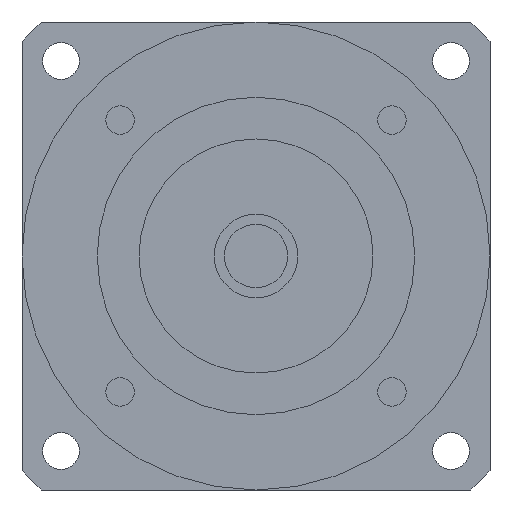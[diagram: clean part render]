
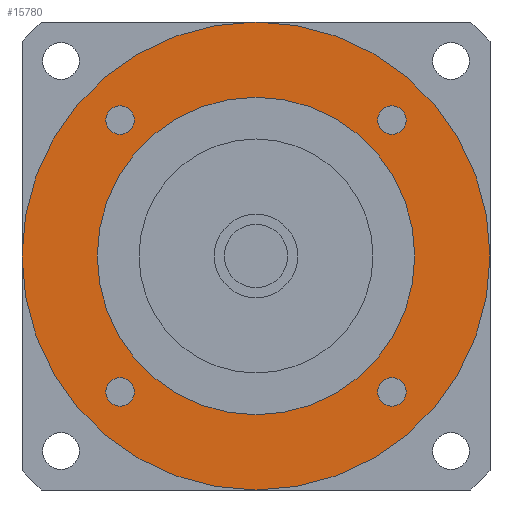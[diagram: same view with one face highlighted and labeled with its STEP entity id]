
A CAD part, left-side view. The second image highlights one B-rep face of the part: STEP entity #15780.
In plain terms, the highlighted planar face has unit normal (-1, 0, 0) as drawn and (0, 0, -1) by its records, which use the part's own axes.
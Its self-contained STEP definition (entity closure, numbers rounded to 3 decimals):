
#14620=CARTESIAN_POINT('',(-70.,0.,-59.701));
#14630=VERTEX_POINT('',#14620);
#14660=CARTESIAN_POINT('',(0.,0.,
-59.701));
#14670=DIRECTION('',(0.,0.,-1.));
#14680=DIRECTION('',(0.,-1.,0.));
#14690=AXIS2_PLACEMENT_3D('',#14660,#14670,#14680);
#14700=CIRCLE('',#14690,70.);
#14710=CARTESIAN_POINT('',(70.,0.,-59.701));
#14720=VERTEX_POINT('',#14710);
#14730=EDGE_CURVE('',#14630,#14720,#14700,.T.);
#14850=CARTESIAN_POINT('',(0.,0.,
-59.701));
#14860=DIRECTION('',(0.,0.,-1.));
#14870=DIRECTION('',(1.,0.,0.));
#14880=AXIS2_PLACEMENT_3D('',#14850,#14860,#14870);
#14890=PLANE('',#14880);
#14900=CARTESIAN_POINT('',(40.659,40.659,-59.701));
#14910=DIRECTION('',(0.,0.,-1.));
#14920=DIRECTION('',(0.,1.,0.));
#14930=AXIS2_PLACEMENT_3D('',#14900,#14910,#14920);
#14940=CIRCLE('',#14930,4.25);
#14950=CARTESIAN_POINT('',(40.659,44.909,-59.701));
#14960=VERTEX_POINT('',#14950);
#14970=CARTESIAN_POINT('',(40.659,36.409,-59.701));
#14980=VERTEX_POINT('',#14970);
#14990=EDGE_CURVE('',#14960,#14980,#14940,.T.);
#15000=ORIENTED_EDGE('',*,*,#14990,.F.);
#15010=EDGE_CURVE('',#14980,#14960,#14940,.T.);
#15020=ORIENTED_EDGE('',*,*,#15010,.F.);
#15030=EDGE_LOOP('',(#15020,#15000));
#15040=FACE_BOUND('',#15030,.T.);
#15050=CARTESIAN_POINT('',(-40.659,40.659,-59.701));
#15060=DIRECTION('',(0.,0.,-1.));
#15070=DIRECTION('',(-1.,0.,0.));
#15080=AXIS2_PLACEMENT_3D('',#15050,#15060,#15070);
#15090=CIRCLE('',#15080,4.25);
#15100=CARTESIAN_POINT('',(-44.909,40.659,-59.701));
#15110=VERTEX_POINT('',#15100);
#15120=CARTESIAN_POINT('',(-36.409,40.659,-59.701));
#15130=VERTEX_POINT('',#15120);
#15140=EDGE_CURVE('',#15110,#15130,#15090,.T.);
#15150=ORIENTED_EDGE('',*,*,#15140,.F.);
#15160=EDGE_CURVE('',#15130,#15110,#15090,.T.);
#15170=ORIENTED_EDGE('',*,*,#15160,.F.);
#15180=EDGE_LOOP('',(#15170,#15150));
#15190=FACE_BOUND('',#15180,.T.);
#15200=CARTESIAN_POINT('',(-40.659,-40.659,-59.701))
;
#15210=DIRECTION('',(0.,0.,-1.));
#15220=DIRECTION('',(0.,-1.,0.));
#15230=AXIS2_PLACEMENT_3D('',#15200,#15210,#15220);
#15240=CIRCLE('',#15230,4.25);
#15250=CARTESIAN_POINT('',(-40.659,-44.909,-59.701))
;
#15260=VERTEX_POINT('',#15250);
#15270=CARTESIAN_POINT('',(-40.659,-36.409,-59.701))
;
#15280=VERTEX_POINT('',#15270);
#15290=EDGE_CURVE('',#15260,#15280,#15240,.T.);
#15300=ORIENTED_EDGE('',*,*,#15290,.F.);
#15310=EDGE_CURVE('',#15280,#15260,#15240,.T.);
#15320=ORIENTED_EDGE('',*,*,#15310,.F.);
#15330=EDGE_LOOP('',(#15320,#15300));
#15340=FACE_BOUND('',#15330,.T.);
#15350=CARTESIAN_POINT('',(0.,0.,
-59.701));
#15360=DIRECTION('',(0.,0.,1.));
#15370=DIRECTION('',(0.,1.,0.));
#15380=AXIS2_PLACEMENT_3D('',#15350,#15360,#15370);
#15390=CIRCLE('',#15380,47.5);
#15400=CARTESIAN_POINT('',(-47.5,0.,-59.701));
#15410=VERTEX_POINT('',#15400);
#15420=CARTESIAN_POINT('',(47.5,0.,-59.701));
#15430=VERTEX_POINT('',#15420);
#15440=EDGE_CURVE('',#15410,#15430,#15390,.T.);
#15450=ORIENTED_EDGE('',*,*,#15440,.T.);
#15460=CARTESIAN_POINT('',(0.,47.5,-59.701));
#15470=VERTEX_POINT('',#15460);
#15480=EDGE_CURVE('',#15470,#15410,#15390,.T.);
#15490=ORIENTED_EDGE('',*,*,#15480,.T.);
#15500=EDGE_CURVE('',#15430,#15470,#15390,.T.);
#15510=ORIENTED_EDGE('',*,*,#15500,.T.);
#15520=EDGE_LOOP('',(#15510,#15490,#15450));
#15530=FACE_BOUND('',#15520,.T.);
#15540=CARTESIAN_POINT('',(40.659,-40.659,-59.701));
#15550=DIRECTION('',(0.,0.,-1.));
#15560=DIRECTION('',(1.,0.,0.));
#15570=AXIS2_PLACEMENT_3D('',#15540,#15550,#15560);
#15580=CIRCLE('',#15570,4.25);
#15590=CARTESIAN_POINT('',(44.909,-40.659,-59.701));
#15600=VERTEX_POINT('',#15590);
#15610=CARTESIAN_POINT('',(36.409,-40.659,-59.701));
#15620=VERTEX_POINT('',#15610);
#15630=EDGE_CURVE('',#15600,#15620,#15580,.T.);
#15640=ORIENTED_EDGE('',*,*,#15630,.F.);
#15650=EDGE_CURVE('',#15620,#15600,#15580,.T.);
#15660=ORIENTED_EDGE('',*,*,#15650,.F.);
#15670=EDGE_LOOP('',(#15660,#15640));
#15680=FACE_BOUND('',#15670,.T.);
#15690=ORIENTED_EDGE('',*,*,#14730,.T.);
#15700=CARTESIAN_POINT('',(0.,-70.,-59.701));
#15710=VERTEX_POINT('',#15700);
#15720=EDGE_CURVE('',#15710,#14630,#14700,.T.);
#15730=ORIENTED_EDGE('',*,*,#15720,.T.);
#15740=EDGE_CURVE('',#14720,#15710,#14700,.T.);
#15750=ORIENTED_EDGE('',*,*,#15740,.T.);
#15760=EDGE_LOOP('',(#15750,#15730,#15690));
#15770=FACE_OUTER_BOUND('',#15760,.T.);
#15780=ADVANCED_FACE('',(#15040,#15190,#15340,#15530,#15680,#15770),
#14890,.T.);
